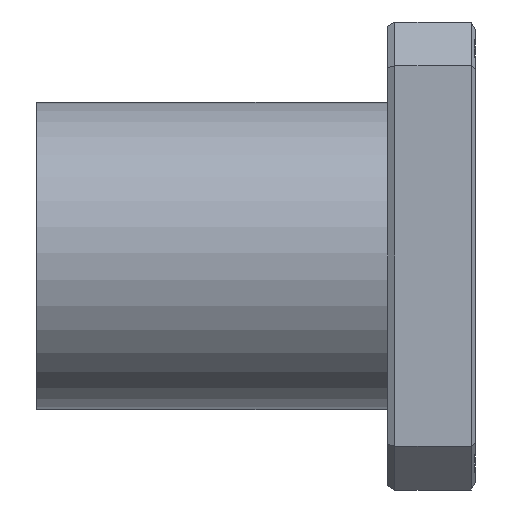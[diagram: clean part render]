
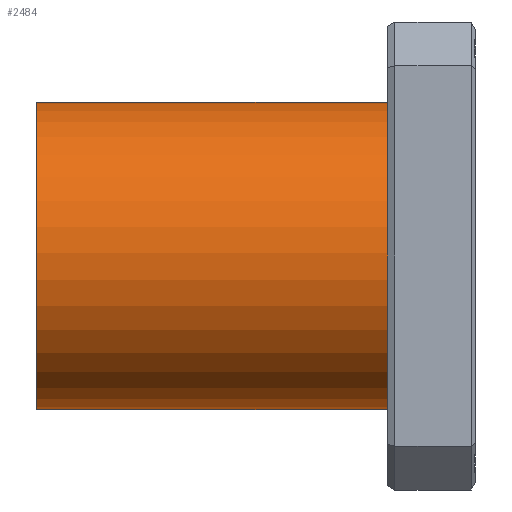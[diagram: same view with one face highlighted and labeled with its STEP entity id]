
A CAD part, left-side view. The second image highlights one B-rep face of the part: STEP entity #2484.
In plain terms, the highlighted cylindrical face has radius 10.5 mm (diameter 21 mm), a partial arc.
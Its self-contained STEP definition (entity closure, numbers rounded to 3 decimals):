
#264 = AXIS2_PLACEMENT_3D ( 'NONE', #1935, #534, #2173 ) ;
#282 = CARTESIAN_POINT ( 'NONE',  ( 0., 30., -10.5 ) ) ;
#360 = VERTEX_POINT ( 'NONE', #1257 ) ;
#534 = DIRECTION ( 'NONE',  ( 0., 1., 0. ) ) ;
#667 = CARTESIAN_POINT ( 'NONE',  ( 0., 30., -10.5 ) ) ;
#678 = VERTEX_POINT ( 'NONE', #1958 ) ;
#694 = EDGE_CURVE ( 'NONE', #2492, #678, #2851, .T. ) ;
#696 = DIRECTION ( 'NONE',  ( 0., 0., 1. ) ) ;
#796 = FACE_OUTER_BOUND ( 'NONE', #1060, .T. ) ;
#894 = EDGE_CURVE ( 'NONE', #1228, #2492, #2317, .T. ) ;
#911 = ORIENTED_EDGE ( 'NONE', *, *, #2809, .T. ) ;
#931 = CARTESIAN_POINT ( 'NONE',  ( 0., 30., 0. ) ) ;
#964 = VECTOR ( 'NONE', #2084, 1000. ) ;
#1060 = EDGE_LOOP ( 'NONE', ( #2613, #2619, #911, #1793 ) ) ;
#1069 = VECTOR ( 'NONE', #2316, 1000. ) ;
#1122 = CYLINDRICAL_SURFACE ( 'NONE', #2181, 10.5 ) ;
#1228 = VERTEX_POINT ( 'NONE', #282 ) ;
#1257 = CARTESIAN_POINT ( 'NONE',  ( 0., 0., -10.5 ) ) ;
#1351 = DIRECTION ( 'NONE',  ( 0., 0., -1. ) ) ;
#1623 = LINE ( 'NONE', #667, #1069 ) ;
#1680 = AXIS2_PLACEMENT_3D ( 'NONE', #2521, #2508, #696 ) ;
#1758 = DIRECTION ( 'NONE',  ( 0., -1., 0. ) ) ;
#1793 = ORIENTED_EDGE ( 'NONE', *, *, #2949, .T. ) ;
#1935 = CARTESIAN_POINT ( 'NONE',  ( 0., 0., 0. ) ) ;
#1958 = CARTESIAN_POINT ( 'NONE',  ( 0., 0., 10.5 ) ) ;
#2084 = DIRECTION ( 'NONE',  ( 0., -1., 0. ) ) ;
#2150 = CARTESIAN_POINT ( 'NONE',  ( 0., 30., 10.5 ) ) ;
#2173 = DIRECTION ( 'NONE',  ( 0., 0., 1. ) ) ;
#2181 = AXIS2_PLACEMENT_3D ( 'NONE', #931, #1758, #1351 ) ;
#2316 = DIRECTION ( 'NONE',  ( 0., -1., 0. ) ) ;
#2317 = CIRCLE ( 'NONE', #1680, 10.5 ) ;
#2484 = ADVANCED_FACE ( 'NONE', ( #796 ), #1122, .T. ) ;
#2492 = VERTEX_POINT ( 'NONE', #2842 ) ;
#2508 = DIRECTION ( 'NONE',  ( 0., 1., 0. ) ) ;
#2521 = CARTESIAN_POINT ( 'NONE',  ( 0., 30., 0. ) ) ;
#2613 = ORIENTED_EDGE ( 'NONE', *, *, #694, .F. ) ;
#2619 = ORIENTED_EDGE ( 'NONE', *, *, #894, .F. ) ;
#2787 = CIRCLE ( 'NONE', #264, 10.5 ) ;
#2809 = EDGE_CURVE ( 'NONE', #1228, #360, #1623, .T. ) ;
#2842 = CARTESIAN_POINT ( 'NONE',  ( 0., 30., 10.5 ) ) ;
#2851 = LINE ( 'NONE', #2150, #964 ) ;
#2949 = EDGE_CURVE ( 'NONE', #360, #678, #2787, .T. ) ;
